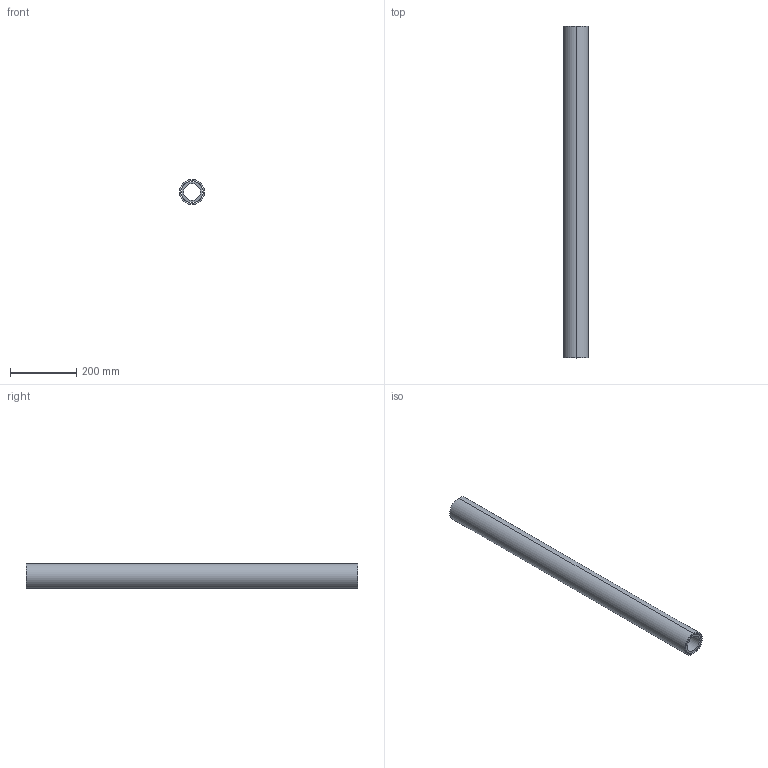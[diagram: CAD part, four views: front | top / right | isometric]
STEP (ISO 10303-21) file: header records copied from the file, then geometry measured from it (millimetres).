
FILE_DESCRIPTION (( 'STEP AP203' ), '1' );
FILE_NAME ('KP_75-63SCEC.step', '2011-08-08T11:50:44', ( '' ), ( '' ), 'SwSTEP 2.0', 'SolidWorks 2011', '' );
FILE_SCHEMA (( 'CONFIG_CONTROL_DESIGN' ));
Length unit declared in the file: millimetre
Products named in the file (1): KP_75-63SCEC
Bounding box: 75.3 x 1000 x 75.3 mm (x, y, z)
Volume: 1788628.5 mm3; surface area: 816464.4 mm2
Topology: 2 solids, 2 shells, 12 faces, 24 edges, 16 vertices
Faces by surface type: cylinder 8, plane 4
Entity records: 407 total; most frequent: DIRECTION 66, CARTESIAN_POINT 53, ORIENTED_EDGE 48, AXIS2_PLACEMENT_3D 29, EDGE_CURVE 24, CIRCLE 16, VERTEX_POINT 16, EDGE_LOOP 16
